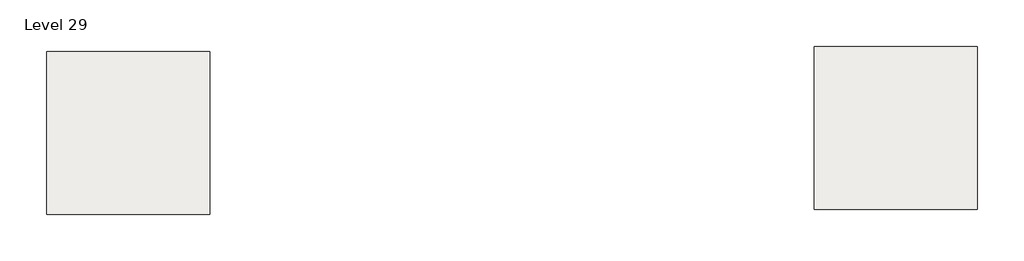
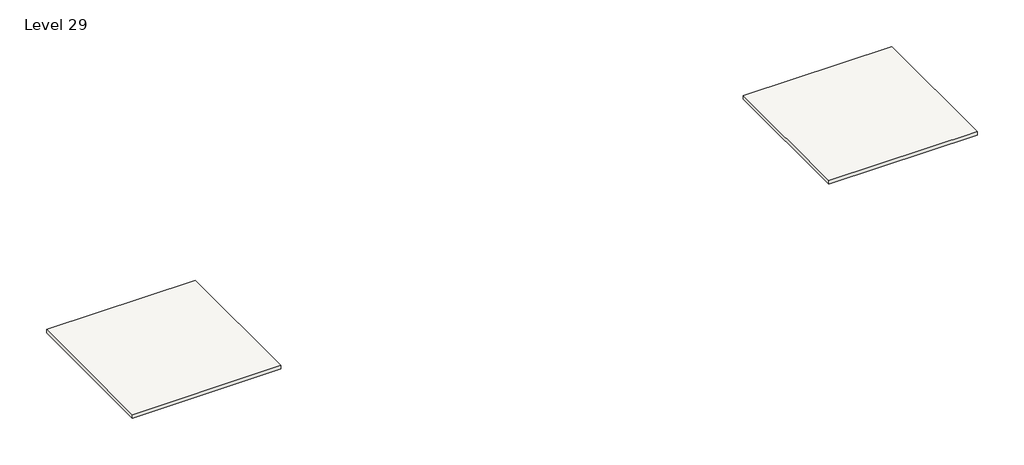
# One storey: 2 slabs.
"""IFC4 building model written with IfcOpenShell, lengths in millimetres."""

from ifc_helpers import new_model, si_unit, frame, origin, place, context, project, spatial, polyline, outline, extrude, element, save

model = new_model("IFC4")

# Units and contexts
model_context = context("Model", 3, world=origin())
ifc_project = project(units=[si_unit("LENGTHUNIT", "METRE", prefix="MILLI")], contexts=[model_context])

# Site, building, storey
site = spatial("IfcSite", under=ifc_project)
building = spatial("IfcBuilding", under=site)
storey = spatial("IfcBuildingStorey", under=building, Name="Level 29", Elevation=85344.0)

# Slabs
placement = place(None, origin())
element("IfcSlab", 1, ObjectType="Generic - 12\"", at=placement, inside=storey, context=model_context, shape_type="SweptSolid", body=[
    extrude(outline(polyline([(-19315.4161695, 7973.9495511), (-7123.4161695, 7973.9495511), (-7123.4161695, -4218.0504489), (-19315.4161695, -4218.0504489), (-19315.4161695, 7973.9495511)])), frame((0.0, 0.0, 85039.2), z_axis=(0.0, 0.0, 1.0), x_axis=(1.0, 0.0, 0.0)), (0.0, 0.0, 1.0), 304.8),
])
element("IfcSlab", 2, ObjectType="Generic - 12\"", at=placement, inside=storey, context=model_context, shape_type="SweptSolid", body=[
    extrude(outline(polyline([(38118.2903978, 8351.0904402), (50310.2903978, 8351.0904402), (50310.2903978, -3840.9095598), (38118.2903978, -3840.9095598), (38118.2903978, 8351.0904402)])), frame((0.0, 0.0, 85039.2), z_axis=(0.0, 0.0, 1.0), x_axis=(1.0, 0.0, 0.0)), (0.0, 0.0, 1.0), 304.8),
])

save(model, "model.ifc")
